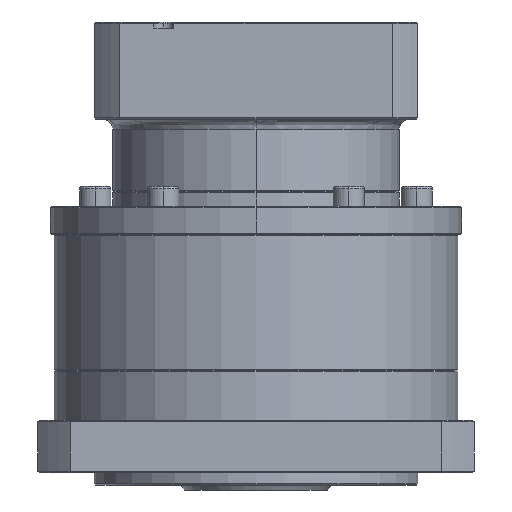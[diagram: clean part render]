
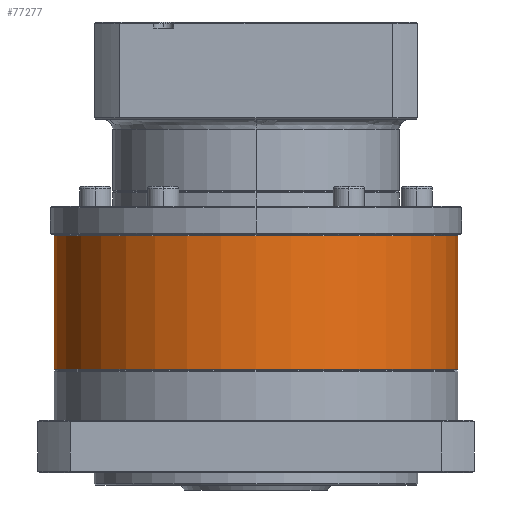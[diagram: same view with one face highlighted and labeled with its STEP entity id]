
A CAD part, front view. The second image highlights one B-rep face of the part: STEP entity #77277.
In plain terms, the highlighted cylindrical face has radius 81 mm (diameter 162 mm), a partial arc.
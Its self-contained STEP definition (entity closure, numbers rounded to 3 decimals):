
#434 = EDGE_CURVE ( 'NONE', #3795, #69838, #45681, .T. ) ;
#3795 = VERTEX_POINT ( 'NONE', #66447 ) ;
#4221 = CARTESIAN_POINT ( 'NONE',  ( -18.865, -5.204, 273.25 ) ) ;
#5305 = DIRECTION ( 'NONE',  ( 0., 0., 1. ) ) ;
#5818 = DIRECTION ( 'NONE',  ( -1., 0., 0. ) ) ;
#6521 = DIRECTION ( 'NONE',  ( 0., 0., -1. ) ) ;
#7400 = CIRCLE ( 'NONE', #36428, 81. ) ;
#9089 = EDGE_CURVE ( 'NONE', #23220, #104302, #7400, .T. ) ;
#10887 = VECTOR ( 'NONE', #47568, 1000. ) ;
#21748 = ORIENTED_EDGE ( 'NONE', *, *, #434, .F. ) ;
#21869 = DIRECTION ( 'NONE',  ( 0., 1., 0. ) ) ;
#23220 = VERTEX_POINT ( 'NONE', #65984 ) ;
#23928 = VECTOR ( 'NONE', #68235, 1000. ) ;
#26650 = EDGE_LOOP ( 'NONE', ( #91543, #83151, #21748, #88913, #96419 ) ) ;
#27253 = CIRCLE ( 'NONE', #65992, 81. ) ;
#28411 = EDGE_CURVE ( 'NONE', #69838, #61930, #27253, .T. ) ;
#31607 = CARTESIAN_POINT ( 'NONE',  ( -18.865, -5.204, 273.25 ) ) ;
#34283 = DIRECTION ( 'NONE',  ( 0., 0., 1. ) ) ;
#34653 = CARTESIAN_POINT ( 'NONE',  ( -18.865, -5.204, 219.75 ) ) ;
#34930 = AXIS2_PLACEMENT_3D ( 'NONE', #4221, #5305, #21869 ) ;
#36428 = AXIS2_PLACEMENT_3D ( 'NONE', #34653, #34283, #42559 ) ;
#40225 = DIRECTION ( 'NONE',  ( 0., 0., 1. ) ) ;
#42559 = DIRECTION ( 'NONE',  ( -1., 0., 0. ) ) ;
#43002 = LINE ( 'NONE', #70911, #10887 ) ;
#45681 = CIRCLE ( 'NONE', #34930, 81. ) ;
#47510 = FACE_OUTER_BOUND ( 'NONE', #26650, .T. ) ;
#47568 = DIRECTION ( 'NONE',  ( 0., 0., -1. ) ) ;
#49865 = CARTESIAN_POINT ( 'NONE',  ( 62.135, -5.204, 273.25 ) ) ;
#49985 = CARTESIAN_POINT ( 'NONE',  ( 62.135, -5.204, 219.75 ) ) ;
#51596 = EDGE_CURVE ( 'NONE', #3795, #23220, #43002, .T. ) ;
#55266 = CARTESIAN_POINT ( 'NONE',  ( -18.865, -5.204, 273.75 ) ) ;
#61930 = VERTEX_POINT ( 'NONE', #49865 ) ;
#65984 = CARTESIAN_POINT ( 'NONE',  ( -99.865, -5.204, 219.75 ) ) ;
#65992 = AXIS2_PLACEMENT_3D ( 'NONE', #31607, #40225, #105319 ) ;
#66447 = CARTESIAN_POINT ( 'NONE',  ( -99.865, -5.204, 273.25 ) ) ;
#68235 = DIRECTION ( 'NONE',  ( 0., 0., -1. ) ) ;
#69838 = VERTEX_POINT ( 'NONE', #91317 ) ;
#70911 = CARTESIAN_POINT ( 'NONE',  ( -99.865, -5.204, 273.75 ) ) ;
#71374 = LINE ( 'NONE', #85108, #23928 ) ;
#77277 = ADVANCED_FACE ( 'NONE', ( #47510 ), #79515, .T. ) ;
#79515 = CYLINDRICAL_SURFACE ( 'NONE', #80537, 81. ) ;
#80537 = AXIS2_PLACEMENT_3D ( 'NONE', #55266, #6521, #5818 ) ;
#83151 = ORIENTED_EDGE ( 'NONE', *, *, #28411, .F. ) ;
#85108 = CARTESIAN_POINT ( 'NONE',  ( 62.135, -5.204, 273.75 ) ) ;
#88913 = ORIENTED_EDGE ( 'NONE', *, *, #51596, .T. ) ;
#91317 = CARTESIAN_POINT ( 'NONE',  ( -18.865, -86.204, 273.25 ) ) ;
#91543 = ORIENTED_EDGE ( 'NONE', *, *, #93927, .F. ) ;
#93927 = EDGE_CURVE ( 'NONE', #61930, #104302, #71374, .T. ) ;
#96419 = ORIENTED_EDGE ( 'NONE', *, *, #9089, .T. ) ;
#104302 = VERTEX_POINT ( 'NONE', #49985 ) ;
#105319 = DIRECTION ( 'NONE',  ( 0., 1., 0. ) ) ;
